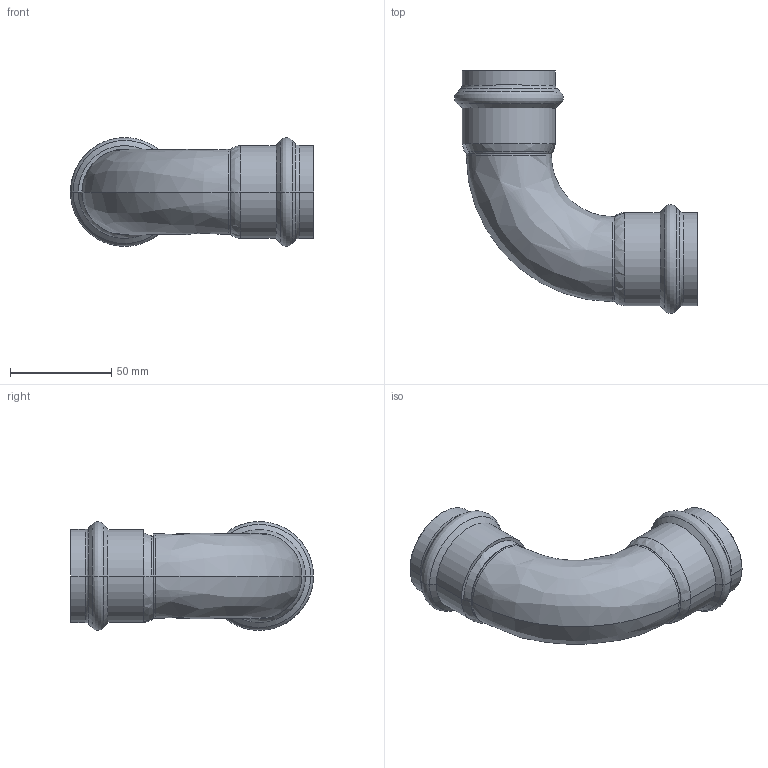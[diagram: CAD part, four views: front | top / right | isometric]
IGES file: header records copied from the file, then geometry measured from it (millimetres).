
Start section: Elysium IGES Interface
Global section: file name: C:\Users\Wallenburg\Desktop\3d modellen sudo\S-Pr VP\SP6002V\6002VW42.igs; native system: CoCreate Modeling 17.00A  17-Jun-2010; preprocessor: CoCreate IGES_3D V2.2; author: Unknown; organization: Unknown; date: 20130114.111956; units: millimetre
Bounding box: 119.87 x 119.78 x 53.57 mm (x, y, z)
Volume: 69548.2 mm3; surface area: 49486.9 mm2
Topology: 1 solids, 2 shells, 91 faces, 184 edges, 96 vertices
Faces by surface type: bspline 91
